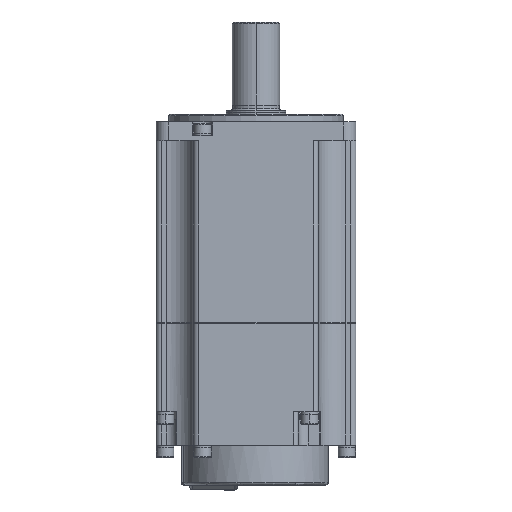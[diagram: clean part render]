
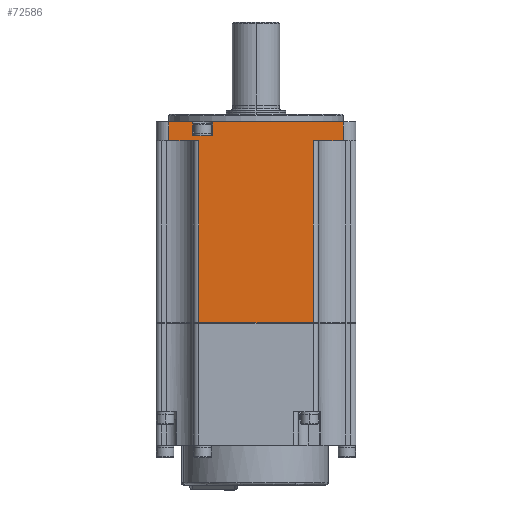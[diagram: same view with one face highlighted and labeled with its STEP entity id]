
A CAD part, front view. The second image highlights one B-rep face of the part: STEP entity #72586.
In plain terms, the highlighted planar face has unit normal (0, -1, 0).
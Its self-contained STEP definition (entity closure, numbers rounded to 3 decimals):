
#1517 = LINE ( 'NONE', #56603, #49617 ) ;
#4740 = VERTEX_POINT ( 'NONE', #26454 ) ;
#4772 = CARTESIAN_POINT ( 'NONE',  ( 23., -40., -105.4 ) ) ;
#4973 = EDGE_CURVE ( 'NONE', #65880, #75031, #48325, .T. ) ;
#5030 = ORIENTED_EDGE ( 'NONE', *, *, #4973, .T. ) ;
#5099 = LINE ( 'NONE', #23868, #37164 ) ;
#5786 = CARTESIAN_POINT ( 'NONE',  ( -25.4, -40., -40.7 ) ) ;
#7036 = EDGE_CURVE ( 'NONE', #75031, #44444, #58166, .T. ) ;
#7106 = LINE ( 'NONE', #29673, #7355 ) ;
#7355 = VECTOR ( 'NONE', #71661, 1000. ) ;
#7403 = EDGE_CURVE ( 'NONE', #44444, #49905, #19411, .T. ) ;
#8497 = CARTESIAN_POINT ( 'NONE',  ( 23., -40., -40.7 ) ) ;
#8810 = ORIENTED_EDGE ( 'NONE', *, *, #76008, .T. ) ;
#13875 = CARTESIAN_POINT ( 'NONE',  ( 23., -40., -48.2 ) ) ;
#14448 = DIRECTION ( 'NONE',  ( 1., 0., 0. ) ) ;
#14935 = EDGE_CURVE ( 'NONE', #49905, #36609, #7106, .T. ) ;
#15293 = EDGE_CURVE ( 'NONE', #36609, #4740, #56691, .T. ) ;
#15391 = EDGE_CURVE ( 'NONE', #4740, #62095, #33779, .T. ) ;
#16314 = CARTESIAN_POINT ( 'NONE',  ( 23., -40., -105.4 ) ) ;
#16688 = VECTOR ( 'NONE', #53059, 1000. ) ;
#16689 = LINE ( 'NONE', #8497, #49022 ) ;
#17138 = ORIENTED_EDGE ( 'NONE', *, *, #15293, .T. ) ;
#19304 = VECTOR ( 'NONE', #29817, 1000. ) ;
#19411 = LINE ( 'NONE', #52966, #16688 ) ;
#19692 = CARTESIAN_POINT ( 'NONE',  ( -23., -40., -121.1 ) ) ;
#20297 = DIRECTION ( 'NONE',  ( 0., 0., -1. ) ) ;
#20401 = EDGE_CURVE ( 'NONE', #62095, #73910, #16689, .T. ) ;
#20513 = EDGE_CURVE ( 'NONE', #73910, #39890, #27987, .T. ) ;
#22181 = PLANE ( 'NONE',  #65993 ) ;
#22202 = CARTESIAN_POINT ( 'NONE',  ( -25.4, -40., -105.4 ) ) ;
#22434 = DIRECTION ( 'NONE',  ( 1., 0., 0. ) ) ;
#23123 = CARTESIAN_POINT ( 'NONE',  ( -35., -40., -105.4 ) ) ;
#23868 = CARTESIAN_POINT ( 'NONE',  ( 23., -40., -48.2 ) ) ;
#24538 = CARTESIAN_POINT ( 'NONE',  ( -35., -40., -48.2 ) ) ;
#25524 = EDGE_CURVE ( 'NONE', #39890, #63073, #5099, .T. ) ;
#26454 = CARTESIAN_POINT ( 'NONE',  ( -25.4, -40., -46.2 ) ) ;
#26773 = ORIENTED_EDGE ( 'NONE', *, *, #73741, .T. ) ;
#27485 = EDGE_LOOP ( 'NONE', ( #26773, #8810, #60894, #5030, #62669, #32660, #40162, #17138, #65734, #51845, #50739, #49555 ) ) ;
#27987 = LINE ( 'NONE', #23123, #44206 ) ;
#29633 = CARTESIAN_POINT ( 'NONE',  ( 35., -40., -105.4 ) ) ;
#29673 = CARTESIAN_POINT ( 'NONE',  ( -17.4, -40., -105.4 ) ) ;
#29817 = DIRECTION ( 'NONE',  ( 1., 0., 0. ) ) ;
#30679 = DIRECTION ( 'NONE',  ( 0., 0., 1. ) ) ;
#31641 = CARTESIAN_POINT ( 'NONE',  ( -17.4, -40., -46.2 ) ) ;
#32660 = ORIENTED_EDGE ( 'NONE', *, *, #7403, .T. ) ;
#33779 = LINE ( 'NONE', #22202, #56641 ) ;
#33808 = CARTESIAN_POINT ( 'NONE',  ( 23., -40., -48.2 ) ) ;
#34762 = DIRECTION ( 'NONE',  ( 0., 0., 1. ) ) ;
#36609 = VERTEX_POINT ( 'NONE', #31641 ) ;
#37164 = VECTOR ( 'NONE', #66000, 1000. ) ;
#37290 = VERTEX_POINT ( 'NONE', #40084 ) ;
#38634 = CARTESIAN_POINT ( 'NONE',  ( -17.4, -40., -40.7 ) ) ;
#38710 = CARTESIAN_POINT ( 'NONE',  ( 23., -40., -46.2 ) ) ;
#39242 = DIRECTION ( 'NONE',  ( -1., 0., 0. ) ) ;
#39890 = VERTEX_POINT ( 'NONE', #24538 ) ;
#40084 = CARTESIAN_POINT ( 'NONE',  ( 23., -40., -121.1 ) ) ;
#40162 = ORIENTED_EDGE ( 'NONE', *, *, #14935, .T. ) ;
#41150 = VERTEX_POINT ( 'NONE', #19692 ) ;
#44206 = VECTOR ( 'NONE', #59332, 1000. ) ;
#44444 = VERTEX_POINT ( 'NONE', #67267 ) ;
#45486 = CARTESIAN_POINT ( 'NONE',  ( -35., -40., -40.7 ) ) ;
#47663 = CARTESIAN_POINT ( 'NONE',  ( 23., -40., -121.1 ) ) ;
#48021 = FACE_OUTER_BOUND ( 'NONE', #27485, .T. ) ;
#48325 = LINE ( 'NONE', #13875, #48553 ) ;
#48553 = VECTOR ( 'NONE', #14448, 1000. ) ;
#49022 = VECTOR ( 'NONE', #62174, 1000. ) ;
#49555 = ORIENTED_EDGE ( 'NONE', *, *, #25524, .T. ) ;
#49617 = VECTOR ( 'NONE', #20297, 1000. ) ;
#49905 = VERTEX_POINT ( 'NONE', #38634 ) ;
#50659 = CARTESIAN_POINT ( 'NONE',  ( 35., -40., -48.2 ) ) ;
#50739 = ORIENTED_EDGE ( 'NONE', *, *, #20513, .T. ) ;
#51845 = ORIENTED_EDGE ( 'NONE', *, *, #20401, .T. ) ;
#52966 = CARTESIAN_POINT ( 'NONE',  ( 23., -40., -40.7 ) ) ;
#53059 = DIRECTION ( 'NONE',  ( -1., 0., 0. ) ) ;
#53961 = VECTOR ( 'NONE', #39242, 1000. ) ;
#56603 = CARTESIAN_POINT ( 'NONE',  ( -23., -40., -105.4 ) ) ;
#56641 = VECTOR ( 'NONE', #58430, 1000. ) ;
#56691 = LINE ( 'NONE', #38710, #53961 ) ;
#57220 = LINE ( 'NONE', #4772, #71061 ) ;
#58166 = LINE ( 'NONE', #29633, #58377 ) ;
#58377 = VECTOR ( 'NONE', #30679, 1000. ) ;
#58430 = DIRECTION ( 'NONE',  ( 0., 0., 1. ) ) ;
#58670 = DIRECTION ( 'NONE',  ( 0., -1., 0. ) ) ;
#59332 = DIRECTION ( 'NONE',  ( 0., 0., -1. ) ) ;
#60894 = ORIENTED_EDGE ( 'NONE', *, *, #77356, .T. ) ;
#62095 = VERTEX_POINT ( 'NONE', #5786 ) ;
#62174 = DIRECTION ( 'NONE',  ( -1., 0., 0. ) ) ;
#62269 = CARTESIAN_POINT ( 'NONE',  ( -23., -40., -48.2 ) ) ;
#62669 = ORIENTED_EDGE ( 'NONE', *, *, #7036, .T. ) ;
#63073 = VERTEX_POINT ( 'NONE', #62269 ) ;
#65558 = LINE ( 'NONE', #47663, #19304 ) ;
#65734 = ORIENTED_EDGE ( 'NONE', *, *, #15391, .T. ) ;
#65880 = VERTEX_POINT ( 'NONE', #33808 ) ;
#65993 = AXIS2_PLACEMENT_3D ( 'NONE', #16314, #58670, #22434 ) ;
#66000 = DIRECTION ( 'NONE',  ( 1., 0., 0. ) ) ;
#67267 = CARTESIAN_POINT ( 'NONE',  ( 35., -40., -40.7 ) ) ;
#71061 = VECTOR ( 'NONE', #34762, 1000. ) ;
#71661 = DIRECTION ( 'NONE',  ( 0., 0., -1. ) ) ;
#72586 = ADVANCED_FACE ( 'NONE', ( #48021 ), #22181, .T. ) ;
#73741 = EDGE_CURVE ( 'NONE', #63073, #41150, #1517, .T. ) ;
#73910 = VERTEX_POINT ( 'NONE', #45486 ) ;
#75031 = VERTEX_POINT ( 'NONE', #50659 ) ;
#76008 = EDGE_CURVE ( 'NONE', #41150, #37290, #65558, .T. ) ;
#77356 = EDGE_CURVE ( 'NONE', #37290, #65880, #57220, .T. ) ;
